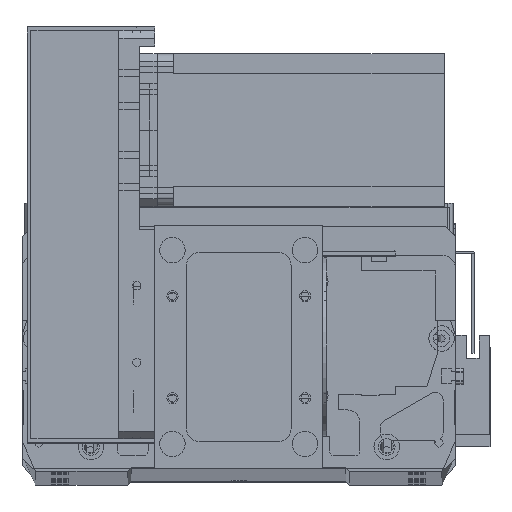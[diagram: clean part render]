
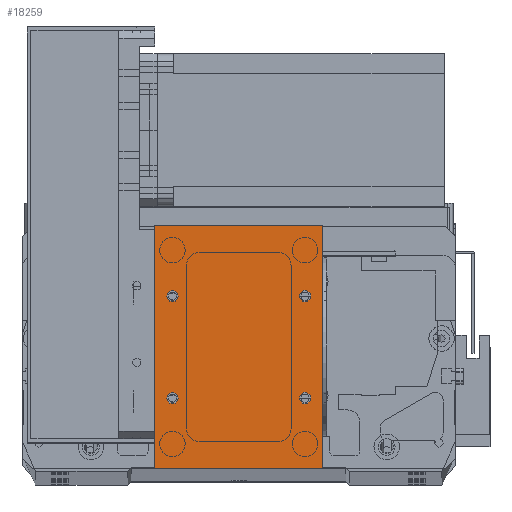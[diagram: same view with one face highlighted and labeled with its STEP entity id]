
A CAD part, top view. The second image highlights one B-rep face of the part: STEP entity #18259.
In plain terms, the highlighted planar face has unit normal (0, 0, 1).
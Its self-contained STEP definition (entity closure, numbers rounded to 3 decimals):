
#209 = AXIS2_PLACEMENT_3D ( 'NONE', #26840, #5466, #24248 ) ;
#546 = EDGE_LOOP ( 'NONE', ( #584, #16385 ) ) ;
#584 = ORIENTED_EDGE ( 'NONE', *, *, #23966, .F. ) ;
#635 = AXIS2_PLACEMENT_3D ( 'NONE', #10769, #29546, #13457 ) ;
#1142 = VERTEX_POINT ( 'NONE', #2303 ) ;
#1718 = CARTESIAN_POINT ( 'NONE',  ( 9.25, 27.5, 2. ) ) ;
#1783 = DIRECTION ( 'NONE',  ( 0., -1., 0. ) ) ;
#2108 = CARTESIAN_POINT ( 'NONE',  ( 59., 67.5, 2. ) ) ;
#2303 = CARTESIAN_POINT ( 'NONE',  ( 0., 95., 2. ) ) ;
#2781 = ORIENTED_EDGE ( 'NONE', *, *, #2893, .T. ) ;
#2893 = EDGE_CURVE ( 'NONE', #18025, #23842, #13157, .T. ) ;
#3312 = VERTEX_POINT ( 'NONE', #14680 ) ;
#3401 = CARTESIAN_POINT ( 'NONE',  ( 7., 67.5, 2. ) ) ;
#4136 = DIRECTION ( 'NONE',  ( 0., 0., 1. ) ) ;
#4308 = AXIS2_PLACEMENT_3D ( 'NONE', #24829, #8729, #27544 ) ;
#4596 = EDGE_CURVE ( 'NONE', #12565, #32890, #13099, .T. ) ;
#4803 = DIRECTION ( 'NONE',  ( 1., 0., 0. ) ) ;
#4960 = DIRECTION ( 'NONE',  ( 0., 0., 1. ) ) ;
#5466 = DIRECTION ( 'NONE',  ( 0., 0., -1. ) ) ;
#6058 = DIRECTION ( 'NONE',  ( 1., 0., 0. ) ) ;
#6085 = CARTESIAN_POINT ( 'NONE',  ( 66., 95., 2. ) ) ;
#6294 = VECTOR ( 'NONE', #26056, 1000. ) ;
#6561 = VERTEX_POINT ( 'NONE', #8638 ) ;
#6623 = VERTEX_POINT ( 'NONE', #18119 ) ;
#7054 = FACE_BOUND ( 'NONE', #31567, .T. ) ;
#7263 = CARTESIAN_POINT ( 'NONE',  ( 0., 0., 2. ) ) ;
#7786 = CIRCLE ( 'NONE', #635, 2.25 ) ;
#7828 = VECTOR ( 'NONE', #1783, 1000. ) ;
#8638 = CARTESIAN_POINT ( 'NONE',  ( 9.25, 67.5, 2. ) ) ;
#8729 = DIRECTION ( 'NONE',  ( 0., 0., 1. ) ) ;
#9183 = ORIENTED_EDGE ( 'NONE', *, *, #27416, .F. ) ;
#9244 = EDGE_CURVE ( 'NONE', #6561, #26784, #32201, .T. ) ;
#9545 = LINE ( 'NONE', #34393, #23012 ) ;
#9880 = CARTESIAN_POINT ( 'NONE',  ( 66., 0., 2. ) ) ;
#10174 = EDGE_CURVE ( 'NONE', #23285, #27695, #7786, .T. ) ;
#10185 = ORIENTED_EDGE ( 'NONE', *, *, #10174, .F. ) ;
#10524 = CIRCLE ( 'NONE', #4308, 2.25 ) ;
#10769 = CARTESIAN_POINT ( 'NONE',  ( 7., 27.5, 2. ) ) ;
#11626 = EDGE_LOOP ( 'NONE', ( #16058, #23713, #2781, #30669 ) ) ;
#11853 = CARTESIAN_POINT ( 'NONE',  ( 4.75, 27.5, 2. ) ) ;
#12470 = AXIS2_PLACEMENT_3D ( 'NONE', #20207, #4136, #22892 ) ;
#12565 = VERTEX_POINT ( 'NONE', #26708 ) ;
#12670 = AXIS2_PLACEMENT_3D ( 'NONE', #30061, #13988, #32767 ) ;
#13099 = CIRCLE ( 'NONE', #29721, 2.25 ) ;
#13157 = LINE ( 'NONE', #9880, #20369 ) ;
#13301 = ORIENTED_EDGE ( 'NONE', *, *, #28267, .F. ) ;
#13381 = CARTESIAN_POINT ( 'NONE',  ( 59., 27.5, 2. ) ) ;
#13457 = DIRECTION ( 'NONE',  ( 1., 0., 0. ) ) ;
#13988 = DIRECTION ( 'NONE',  ( 0., 0., 1. ) ) ;
#14680 = CARTESIAN_POINT ( 'NONE',  ( 61.25, 27.5, 2. ) ) ;
#15893 = FACE_BOUND ( 'NONE', #23121, .T. ) ;
#15896 = CARTESIAN_POINT ( 'NONE',  ( 0., 0., 2. ) ) ;
#16058 = ORIENTED_EDGE ( 'NONE', *, *, #19223, .T. ) ;
#16136 = DIRECTION ( 'NONE',  ( 1., 0., 0. ) ) ;
#16385 = ORIENTED_EDGE ( 'NONE', *, *, #24826, .F. ) ;
#16558 = CARTESIAN_POINT ( 'NONE',  ( 4.75, 67.5, 2. ) ) ;
#16665 = LINE ( 'NONE', #25849, #7828 ) ;
#16888 = EDGE_CURVE ( 'NONE', #18779, #18025, #28563, .T. ) ;
#17832 = CARTESIAN_POINT ( 'NONE',  ( 66., 0., 2. ) ) ;
#18025 = VERTEX_POINT ( 'NONE', #17832 ) ;
#18119 = CARTESIAN_POINT ( 'NONE',  ( 56.75, 27.5, 2. ) ) ;
#18259 = ADVANCED_FACE ( 'NONE', ( #7054, #21361, #28476, #15893, #27636 ), #18751, .F. ) ;
#18361 = DIRECTION ( 'NONE',  ( -1., 0., 0. ) ) ;
#18718 = EDGE_CURVE ( 'NONE', #23842, #1142, #9545, .T. ) ;
#18751 = PLANE ( 'NONE',  #209 ) ;
#18779 = VERTEX_POINT ( 'NONE', #15896 ) ;
#19223 = EDGE_CURVE ( 'NONE', #1142, #18779, #16665, .T. ) ;
#19989 = AXIS2_PLACEMENT_3D ( 'NONE', #13381, #32195, #16136 ) ;
#20207 = CARTESIAN_POINT ( 'NONE',  ( 59., 27.5, 2. ) ) ;
#20369 = VECTOR ( 'NONE', #28661, 1000. ) ;
#20899 = DIRECTION ( 'NONE',  ( 0., 0., 1. ) ) ;
#21051 = CARTESIAN_POINT ( 'NONE',  ( 7., 27.5, 2. ) ) ;
#21361 = FACE_BOUND ( 'NONE', #27538, .T. ) ;
#22170 = DIRECTION ( 'NONE',  ( 0., 0., 1. ) ) ;
#22892 = DIRECTION ( 'NONE',  ( 1., 0., 0. ) ) ;
#23012 = VECTOR ( 'NONE', #18361, 1000. ) ;
#23121 = EDGE_LOOP ( 'NONE', ( #13301, #10185 ) ) ;
#23153 = EDGE_CURVE ( 'NONE', #32890, #12565, #28143, .T. ) ;
#23285 = VERTEX_POINT ( 'NONE', #11853 ) ;
#23713 = ORIENTED_EDGE ( 'NONE', *, *, #16888, .T. ) ;
#23736 = DIRECTION ( 'NONE',  ( 1., 0., 0. ) ) ;
#23842 = VERTEX_POINT ( 'NONE', #6085 ) ;
#23867 = AXIS2_PLACEMENT_3D ( 'NONE', #21051, #4960, #23736 ) ;
#23907 = CIRCLE ( 'NONE', #23867, 2.25 ) ;
#23966 = EDGE_CURVE ( 'NONE', #3312, #6623, #29743, .T. ) ;
#24246 = CIRCLE ( 'NONE', #19989, 2.25 ) ;
#24248 = DIRECTION ( 'NONE',  ( -1., 0., 0. ) ) ;
#24826 = EDGE_CURVE ( 'NONE', #6623, #3312, #24246, .T. ) ;
#24829 = CARTESIAN_POINT ( 'NONE',  ( 7., 67.5, 2. ) ) ;
#25849 = CARTESIAN_POINT ( 'NONE',  ( 0., 0., 2. ) ) ;
#26056 = DIRECTION ( 'NONE',  ( 1., 0., 0. ) ) ;
#26708 = CARTESIAN_POINT ( 'NONE',  ( 61.25, 67.5, 2. ) ) ;
#26784 = VERTEX_POINT ( 'NONE', #16558 ) ;
#26840 = CARTESIAN_POINT ( 'NONE',  ( 0., 0., 2. ) ) ;
#27416 = EDGE_CURVE ( 'NONE', #26784, #6561, #10524, .T. ) ;
#27538 = EDGE_LOOP ( 'NONE', ( #32096, #28177 ) ) ;
#27544 = DIRECTION ( 'NONE',  ( 1., 0., 0. ) ) ;
#27636 = FACE_OUTER_BOUND ( 'NONE', #11626, .T. ) ;
#27695 = VERTEX_POINT ( 'NONE', #1718 ) ;
#27738 = ORIENTED_EDGE ( 'NONE', *, *, #9244, .F. ) ;
#28143 = CIRCLE ( 'NONE', #12670, 2.25 ) ;
#28177 = ORIENTED_EDGE ( 'NONE', *, *, #23153, .F. ) ;
#28267 = EDGE_CURVE ( 'NONE', #27695, #23285, #23907, .T. ) ;
#28476 = FACE_BOUND ( 'NONE', #546, .T. ) ;
#28563 = LINE ( 'NONE', #7263, #6294 ) ;
#28661 = DIRECTION ( 'NONE',  ( 0., 1., 0. ) ) ;
#28828 = CARTESIAN_POINT ( 'NONE',  ( 56.75, 67.5, 2. ) ) ;
#29546 = DIRECTION ( 'NONE',  ( 0., 0., 1. ) ) ;
#29721 = AXIS2_PLACEMENT_3D ( 'NONE', #2108, #20899, #4803 ) ;
#29743 = CIRCLE ( 'NONE', #12470, 2.25 ) ;
#30061 = CARTESIAN_POINT ( 'NONE',  ( 59., 67.5, 2. ) ) ;
#30669 = ORIENTED_EDGE ( 'NONE', *, *, #18718, .T. ) ;
#31567 = EDGE_LOOP ( 'NONE', ( #27738, #9183 ) ) ;
#32092 = AXIS2_PLACEMENT_3D ( 'NONE', #3401, #22170, #6058 ) ;
#32096 = ORIENTED_EDGE ( 'NONE', *, *, #4596, .F. ) ;
#32195 = DIRECTION ( 'NONE',  ( 0., 0., 1. ) ) ;
#32201 = CIRCLE ( 'NONE', #32092, 2.25 ) ;
#32767 = DIRECTION ( 'NONE',  ( 1., 0., 0. ) ) ;
#32890 = VERTEX_POINT ( 'NONE', #28828 ) ;
#34393 = CARTESIAN_POINT ( 'NONE',  ( 0., 95., 2. ) ) ;
